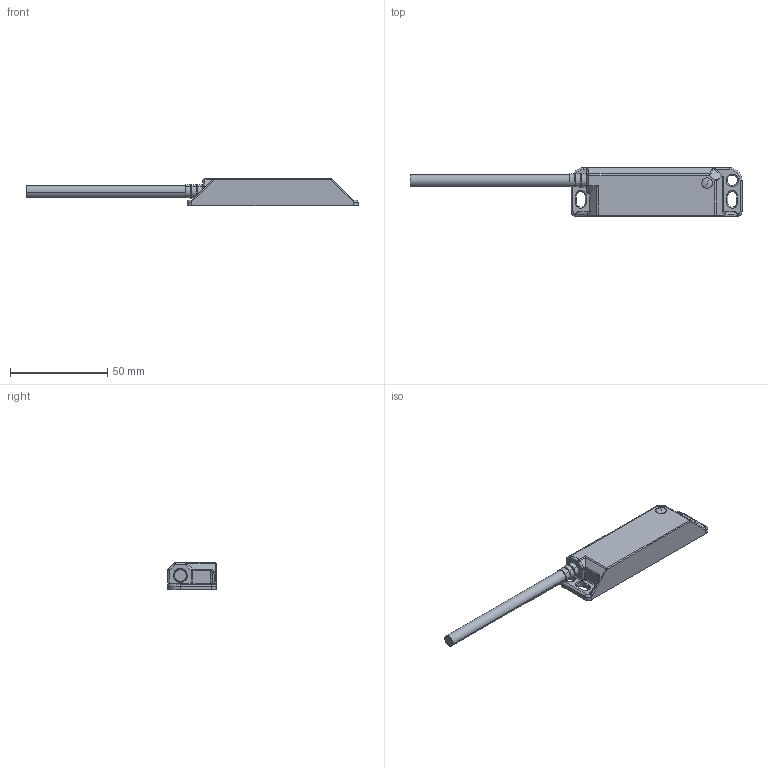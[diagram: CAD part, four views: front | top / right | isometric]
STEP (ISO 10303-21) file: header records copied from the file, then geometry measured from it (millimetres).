
FILE_DESCRIPTION (( 'STEP AP203' ), '1' );
FILE_NAME ('2-Switch LM Coded STEP.STEP', '2012-06-18T08:37:35', ( '' ), ( '' ), 'SwSTEP 2.0', 'SolidWorks 2012', '' );
FILE_SCHEMA (( 'CONFIG_CONTROL_DESIGN' ));
Length unit declared in the file: millimetre
Products named in the file (1): 2-Switch LM Coded STEP
Bounding box: 170.91 x 25 x 14.4 mm (x, y, z)
Surface area: 10312.2 mm2 (no closed solid volume)
Topology: 0 solids, 7 shells, 209 faces, 546 edges, 333 vertices
Faces by surface type: cylinder 67, plane 48, torus 42, bspline 32, sphere 10, cone 10
Entity records: 7231 total; most frequent: CARTESIAN_POINT 2220, DIRECTION 1047, ORIENTED_EDGE 994, EDGE_CURVE 540, AXIS2_PLACEMENT_3D 406, VERTEX_POINT 333, LINE 235, VECTOR 235
